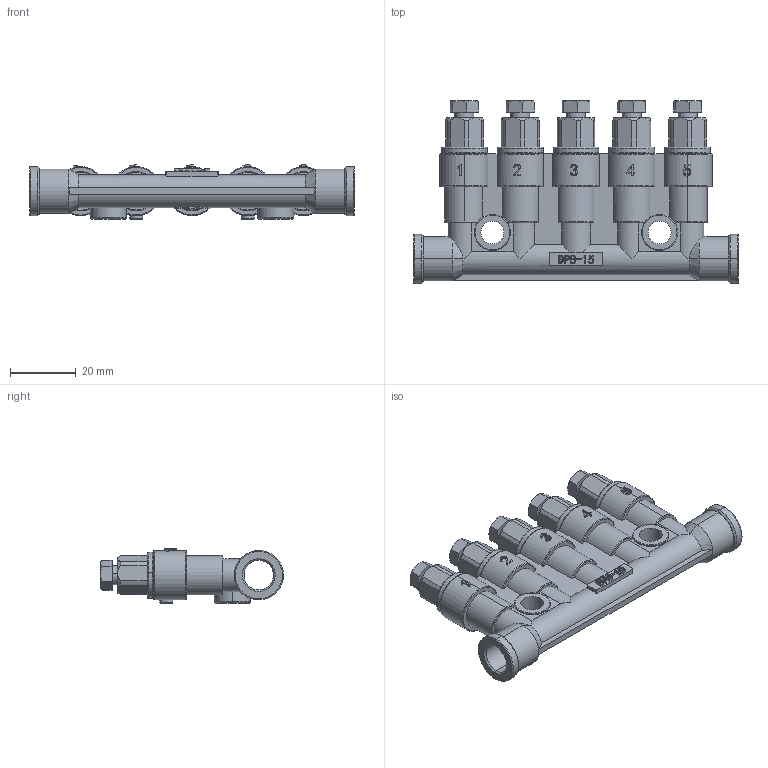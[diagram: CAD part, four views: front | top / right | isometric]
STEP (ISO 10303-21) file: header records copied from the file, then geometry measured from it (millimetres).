
FILE_DESCRIPTION (( 'STEP AP203' ), '1' );
FILE_NAME ('DPB-16.STEP', '2020-04-17T09:01:32', ( '个人用户' ), ( '微软中国' ), 'SwSTEP 2.0', 'SolidWorks 2018', '' );
FILE_SCHEMA (( 'CONFIG_CONTROL_DESIGN' ));
Length unit declared in the file: millimetre
Products named in the file (1): DPB-16
Bounding box: 99 x 55.7 x 16.5 mm (x, y, z)
Surface area: 15750.6 mm2 (no closed solid volume)
Topology: 0 solids, 16 shells, 584 faces, 1633 edges, 1077 vertices
Faces by surface type: plane 249, cylinder 152, torus 81, cone 59, bspline 43
Entity records: 23105 total; most frequent: CARTESIAN_POINT 8324, ORIENTED_EDGE 3103, DIRECTION 2986, EDGE_CURVE 1633, AXIS2_PLACEMENT_3D 1119, VERTEX_POINT 1077, VECTOR 748, LINE 748
